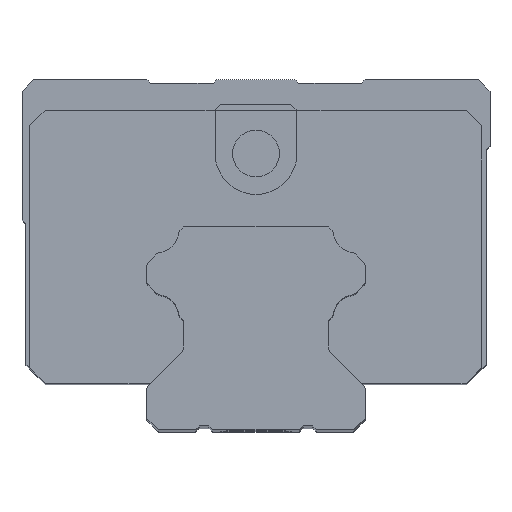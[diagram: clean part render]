
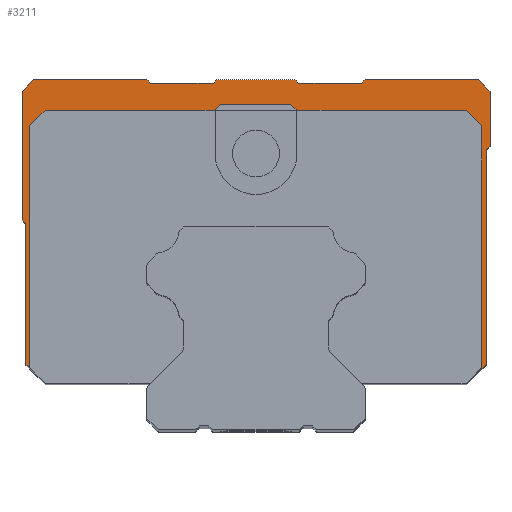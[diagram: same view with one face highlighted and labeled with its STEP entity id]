
A CAD part, top view. The second image highlights one B-rep face of the part: STEP entity #3211.
In plain terms, the highlighted planar face has unit normal (0, 0, 1).
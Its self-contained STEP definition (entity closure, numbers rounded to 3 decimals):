
#764=DIRECTION('',(1.,0.,0.));
#765=VECTOR('',#764,21.7);
#766=CARTESIAN_POINT('',(-27.037,15.039,35.));
#767=LINE('',#766,#765);
#772=DIRECTION('',(1.,0.,0.));
#773=VECTOR('',#772,21.7);
#774=CARTESIAN_POINT('',(5.263,15.039,35.));
#775=LINE('',#774,#773);
#833=DIRECTION('',(0.707,0.707,0.));
#834=VECTOR('',#833,2.884);
#835=CARTESIAN_POINT('',(26.924,-20.,35.));
#836=LINE('',#835,#834);
#837=DIRECTION('',(-0.707,0.707,0.));
#838=VECTOR('',#837,2.828);
#839=CARTESIAN_POINT('',(28.963,13.039,35.));
#840=LINE('',#839,#838);
#841=DIRECTION('',(-0.707,0.707,0.));
#842=VECTOR('',#841,1.131);
#843=CARTESIAN_POINT('',(5.263,15.039,35.));
#844=LINE('',#843,#842);
#845=DIRECTION('',(-0.707,-0.707,0.));
#846=VECTOR('',#845,1.131);
#847=CARTESIAN_POINT('',(-4.537,15.839,35.));
#848=LINE('',#847,#846);
#849=DIRECTION('',(-0.707,-0.707,0.));
#850=VECTOR('',#849,2.829);
#851=CARTESIAN_POINT('',(-27.037,15.039,35.));
#852=LINE('',#851,#850);
#853=DIRECTION('',(-0.708,0.706,0.));
#854=VECTOR('',#853,0.654);
#855=CARTESIAN_POINT('',(-29.037,-17.962,35.));
#856=LINE('',#855,#854);
#857=DIRECTION('',(0.,1.,0.));
#858=VECTOR('',#857,18.);
#859=CARTESIAN_POINT('',(-29.5,-17.5,35.));
#860=LINE('',#859,#858);
#861=DIRECTION('',(-0.707,0.707,0.));
#862=VECTOR('',#861,0.707);
#863=CARTESIAN_POINT('',(-29.5,0.5,35.));
#864=LINE('',#863,#862);
#865=DIRECTION('',(0.,1.,0.));
#866=VECTOR('',#865,16.5);
#867=CARTESIAN_POINT('',(-30.,1.,35.));
#868=LINE('',#867,#866);
#869=DIRECTION('',(0.707,0.707,0.));
#870=VECTOR('',#869,2.121);
#871=CARTESIAN_POINT('',(-30.,17.5,35.));
#872=LINE('',#871,#870);
#873=DIRECTION('',(1.,0.,0.));
#874=VECTOR('',#873,14.5);
#875=CARTESIAN_POINT('',(-28.5,19.,35.));
#876=LINE('',#875,#874);
#877=DIRECTION('',(0.707,-0.707,0.));
#878=VECTOR('',#877,0.707);
#879=CARTESIAN_POINT('',(-14.,19.,35.));
#880=LINE('',#879,#878);
#881=DIRECTION('',(1.,0.,0.));
#882=VECTOR('',#881,8.);
#883=CARTESIAN_POINT('',(-13.5,18.5,35.));
#884=LINE('',#883,#882);
#885=DIRECTION('',(0.707,0.707,0.));
#886=VECTOR('',#885,0.707);
#887=CARTESIAN_POINT('',(-5.5,18.5,35.));
#888=LINE('',#887,#886);
#889=DIRECTION('',(1.,0.,0.));
#890=VECTOR('',#889,10.);
#891=CARTESIAN_POINT('',(-5.,19.,35.));
#892=LINE('',#891,#890);
#893=DIRECTION('',(0.707,-0.707,0.));
#894=VECTOR('',#893,0.707);
#895=CARTESIAN_POINT('',(5.,19.,35.));
#896=LINE('',#895,#894);
#897=DIRECTION('',(1.,0.,0.));
#898=VECTOR('',#897,8.);
#899=CARTESIAN_POINT('',(5.5,18.5,35.));
#900=LINE('',#899,#898);
#901=DIRECTION('',(0.707,0.707,0.));
#902=VECTOR('',#901,0.707);
#903=CARTESIAN_POINT('',(13.5,18.5,35.));
#904=LINE('',#903,#902);
#905=DIRECTION('',(1.,0.,0.));
#906=VECTOR('',#905,14.5);
#907=CARTESIAN_POINT('',(14.,19.,35.));
#908=LINE('',#907,#906);
#909=DIRECTION('',(0.707,-0.707,0.));
#910=VECTOR('',#909,2.121);
#911=CARTESIAN_POINT('',(28.5,19.,35.));
#912=LINE('',#911,#910);
#913=DIRECTION('',(0.,-1.,0.));
#914=VECTOR('',#913,7.);
#915=CARTESIAN_POINT('',(30.,17.5,35.));
#916=LINE('',#915,#914);
#917=DIRECTION('',(-0.707,-0.707,0.));
#918=VECTOR('',#917,0.707);
#919=CARTESIAN_POINT('',(30.,10.5,35.));
#920=LINE('',#919,#918);
#921=DIRECTION('',(0.,-1.,0.));
#922=VECTOR('',#921,27.5);
#923=CARTESIAN_POINT('',(29.5,10.,35.));
#924=LINE('',#923,#922);
#925=DIRECTION('',(-0.707,-0.707,0.));
#926=VECTOR('',#925,3.536);
#927=CARTESIAN_POINT('',(29.5,-17.5,35.));
#928=LINE('',#927,#926);
#929=DIRECTION('',(-1.,0.,0.));
#930=VECTOR('',#929,0.076);
#931=CARTESIAN_POINT('',(27.,-20.,35.));
#932=LINE('',#931,#930);
#937=DIRECTION('',(0.,-1.,0.));
#938=VECTOR('',#937,31.);
#939=CARTESIAN_POINT('',(28.963,13.039,35.));
#940=LINE('',#939,#938);
#1005=DIRECTION('',(1.,0.,0.));
#1006=VECTOR('',#1005,9.);
#1007=CARTESIAN_POINT('',(-4.537,15.839,35.));
#1008=LINE('',#1007,#1006);
#1117=DIRECTION('',(0.,1.,0.));
#1118=VECTOR('',#1117,31.001);
#1119=CARTESIAN_POINT('',(-29.037,-17.962,35.));
#1120=LINE('',#1119,#1118);
#1651=CARTESIAN_POINT('',(-29.5,-17.5,35.));
#1652=VERTEX_POINT('',#1651);
#1653=CARTESIAN_POINT('',(-29.037,-17.962,35.));
#1654=VERTEX_POINT('',#1653);
#1803=CARTESIAN_POINT('',(26.924,-20.,35.));
#1804=VERTEX_POINT('',#1803);
#1805=CARTESIAN_POINT('',(27.,-20.,35.));
#1806=VERTEX_POINT('',#1805);
#1817=CARTESIAN_POINT('',(-29.037,13.039,35.));
#1818=VERTEX_POINT('',#1817);
#1819=CARTESIAN_POINT('',(28.963,-17.961,35.));
#1820=VERTEX_POINT('',#1819);
#1821=CARTESIAN_POINT('',(28.963,13.039,35.));
#1822=VERTEX_POINT('',#1821);
#1823=CARTESIAN_POINT('',(26.963,15.039,35.));
#1824=VERTEX_POINT('',#1823);
#1825=CARTESIAN_POINT('',(5.263,15.039,35.));
#1826=VERTEX_POINT('',#1825);
#1827=CARTESIAN_POINT('',(4.463,15.839,35.));
#1828=VERTEX_POINT('',#1827);
#1829=CARTESIAN_POINT('',(-4.537,15.839,35.));
#1830=VERTEX_POINT('',#1829);
#1831=CARTESIAN_POINT('',(-5.337,15.039,35.));
#1832=VERTEX_POINT('',#1831);
#1833=CARTESIAN_POINT('',(-27.037,15.039,35.));
#1834=VERTEX_POINT('',#1833);
#1835=CARTESIAN_POINT('',(-29.5,0.5,35.));
#1836=VERTEX_POINT('',#1835);
#1837=CARTESIAN_POINT('',(-30.,1.,35.));
#1838=VERTEX_POINT('',#1837);
#1839=CARTESIAN_POINT('',(-30.,17.5,35.));
#1840=VERTEX_POINT('',#1839);
#1841=CARTESIAN_POINT('',(-28.5,19.,35.));
#1842=VERTEX_POINT('',#1841);
#1843=CARTESIAN_POINT('',(-14.,19.,35.));
#1844=VERTEX_POINT('',#1843);
#1845=CARTESIAN_POINT('',(-13.5,18.5,35.));
#1846=VERTEX_POINT('',#1845);
#1847=CARTESIAN_POINT('',(-5.5,18.5,35.));
#1848=VERTEX_POINT('',#1847);
#1849=CARTESIAN_POINT('',(-5.,19.,35.));
#1850=VERTEX_POINT('',#1849);
#1851=CARTESIAN_POINT('',(5.,19.,35.));
#1852=VERTEX_POINT('',#1851);
#1853=CARTESIAN_POINT('',(5.5,18.5,35.));
#1854=VERTEX_POINT('',#1853);
#1855=CARTESIAN_POINT('',(13.5,18.5,35.));
#1856=VERTEX_POINT('',#1855);
#1857=CARTESIAN_POINT('',(14.,19.,35.));
#1858=VERTEX_POINT('',#1857);
#1859=CARTESIAN_POINT('',(28.5,19.,35.));
#1860=VERTEX_POINT('',#1859);
#1861=CARTESIAN_POINT('',(30.,17.5,35.));
#1862=VERTEX_POINT('',#1861);
#1863=CARTESIAN_POINT('',(30.,10.5,35.));
#1864=VERTEX_POINT('',#1863);
#1865=CARTESIAN_POINT('',(29.5,10.,35.));
#1866=VERTEX_POINT('',#1865);
#1867=CARTESIAN_POINT('',(29.5,-17.5,35.));
#1868=VERTEX_POINT('',#1867);
#3149=CARTESIAN_POINT('',(0.,0.,35.));
#3150=DIRECTION('',(0.,0.,1.));
#3151=DIRECTION('',(1.,0.,0.));
#3152=AXIS2_PLACEMENT_3D('',#3149,#3150,#3151);
#3153=PLANE('',#3152);
#3155=ORIENTED_EDGE('',*,*,#3154,.T.);
#3157=ORIENTED_EDGE('',*,*,#3156,.F.);
#3159=ORIENTED_EDGE('',*,*,#3158,.T.);
#3160=ORIENTED_EDGE('',*,*,#3056,.F.);
#3162=ORIENTED_EDGE('',*,*,#3161,.T.);
#3164=ORIENTED_EDGE('',*,*,#3163,.F.);
#3166=ORIENTED_EDGE('',*,*,#3165,.T.);
#3167=ORIENTED_EDGE('',*,*,#3048,.F.);
#3168=ORIENTED_EDGE('',*,*,#3140,.T.);
#3170=ORIENTED_EDGE('',*,*,#3169,.F.);
#3171=ORIENTED_EDGE('',*,*,#2409,.T.);
#3173=ORIENTED_EDGE('',*,*,#3172,.T.);
#3175=ORIENTED_EDGE('',*,*,#3174,.T.);
#3177=ORIENTED_EDGE('',*,*,#3176,.T.);
#3179=ORIENTED_EDGE('',*,*,#3178,.T.);
#3181=ORIENTED_EDGE('',*,*,#3180,.T.);
#3183=ORIENTED_EDGE('',*,*,#3182,.T.);
#3185=ORIENTED_EDGE('',*,*,#3184,.T.);
#3187=ORIENTED_EDGE('',*,*,#3186,.T.);
#3189=ORIENTED_EDGE('',*,*,#3188,.T.);
#3191=ORIENTED_EDGE('',*,*,#3190,.T.);
#3193=ORIENTED_EDGE('',*,*,#3192,.T.);
#3195=ORIENTED_EDGE('',*,*,#3194,.T.);
#3197=ORIENTED_EDGE('',*,*,#3196,.T.);
#3199=ORIENTED_EDGE('',*,*,#3198,.T.);
#3201=ORIENTED_EDGE('',*,*,#3200,.T.);
#3203=ORIENTED_EDGE('',*,*,#3202,.T.);
#3205=ORIENTED_EDGE('',*,*,#3204,.T.);
#3207=ORIENTED_EDGE('',*,*,#3206,.T.);
#3208=ORIENTED_EDGE('',*,*,#2935,.T.);
#3209=EDGE_LOOP('',(#3155,#3157,#3159,#3160,#3162,#3164,#3166,#3167,#3168,#3170,
#3171,#3173,#3175,#3177,#3179,#3181,#3183,#3185,#3187,#3189,#3191,#3193,#3195,
#3197,#3199,#3201,#3203,#3205,#3207,#3208));
#3210=FACE_OUTER_BOUND('',#3209,.F.);
#3211=ADVANCED_FACE('',(#3210),#3153,.T.);
#2409=EDGE_CURVE('',#1654,#1652,#856,.T.);
#2935=EDGE_CURVE('',#1806,#1804,#932,.T.);
#3048=EDGE_CURVE('',#1834,#1832,#767,.T.);
#3056=EDGE_CURVE('',#1826,#1824,#775,.T.);
#3140=EDGE_CURVE('',#1834,#1818,#852,.T.);
#3154=EDGE_CURVE('',#1804,#1820,#836,.T.);
#3156=EDGE_CURVE('',#1822,#1820,#940,.T.);
#3158=EDGE_CURVE('',#1822,#1824,#840,.T.);
#3161=EDGE_CURVE('',#1826,#1828,#844,.T.);
#3163=EDGE_CURVE('',#1830,#1828,#1008,.T.);
#3165=EDGE_CURVE('',#1830,#1832,#848,.T.);
#3169=EDGE_CURVE('',#1654,#1818,#1120,.T.);
#3172=EDGE_CURVE('',#1652,#1836,#860,.T.);
#3174=EDGE_CURVE('',#1836,#1838,#864,.T.);
#3176=EDGE_CURVE('',#1838,#1840,#868,.T.);
#3178=EDGE_CURVE('',#1840,#1842,#872,.T.);
#3180=EDGE_CURVE('',#1842,#1844,#876,.T.);
#3182=EDGE_CURVE('',#1844,#1846,#880,.T.);
#3184=EDGE_CURVE('',#1846,#1848,#884,.T.);
#3186=EDGE_CURVE('',#1848,#1850,#888,.T.);
#3188=EDGE_CURVE('',#1850,#1852,#892,.T.);
#3190=EDGE_CURVE('',#1852,#1854,#896,.T.);
#3192=EDGE_CURVE('',#1854,#1856,#900,.T.);
#3194=EDGE_CURVE('',#1856,#1858,#904,.T.);
#3196=EDGE_CURVE('',#1858,#1860,#908,.T.);
#3198=EDGE_CURVE('',#1860,#1862,#912,.T.);
#3200=EDGE_CURVE('',#1862,#1864,#916,.T.);
#3202=EDGE_CURVE('',#1864,#1866,#920,.T.);
#3204=EDGE_CURVE('',#1866,#1868,#924,.T.);
#3206=EDGE_CURVE('',#1868,#1806,#928,.T.);
